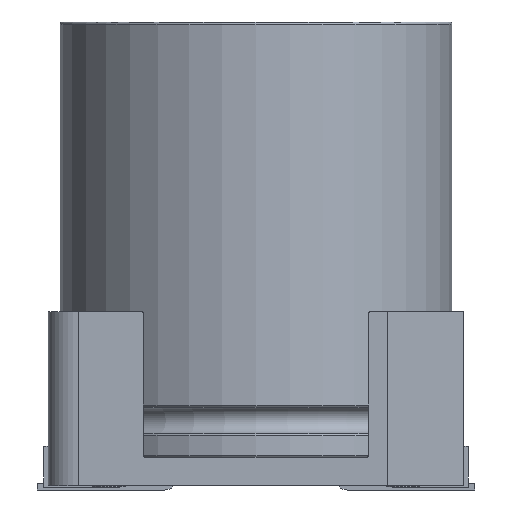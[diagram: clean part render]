
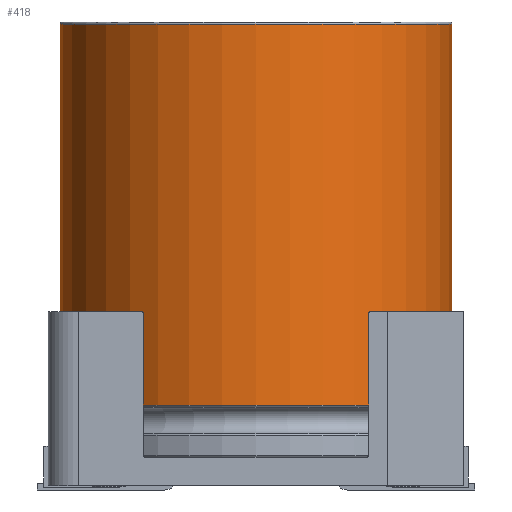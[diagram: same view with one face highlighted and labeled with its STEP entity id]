
A CAD part, front view. The second image highlights one B-rep face of the part: STEP entity #418.
In plain terms, the highlighted cylindrical face has radius 9 mm (diameter 18 mm), a full revolution.
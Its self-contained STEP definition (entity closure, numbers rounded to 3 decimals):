
#144=CYLINDRICAL_SURFACE('',#3396,9.);
#418=ADVANCED_FACE('',(#1357,#1358),#144,.T.);
#1357=FACE_BOUND('',#1441,.T.);
#1358=FACE_BOUND('',#1442,.T.);
#1441=EDGE_LOOP('',(#1883));
#1442=EDGE_LOOP('',(#1884));
#1883=ORIENTED_EDGE('',*,*,#2929,.T.);
#1884=ORIENTED_EDGE('',*,*,#2930,.T.);
#2587=VERTEX_POINT('',#4968);
#2588=VERTEX_POINT('',#4970);
#2929=EDGE_CURVE('',#2587,#2587,#3239,.T.);
#2930=EDGE_CURVE('',#2588,#2588,#3240,.T.);
#3239=CIRCLE('',#3394,9.);
#3240=CIRCLE('',#3395,9.);
#3394=AXIS2_PLACEMENT_3D('',#4967,#3894,#3895);
#3395=AXIS2_PLACEMENT_3D('',#4969,#3896,#3897);
#3396=AXIS2_PLACEMENT_3D('',#4971,#3898,#3899);
#3894=DIRECTION('',(0.,0.,1.));
#3895=DIRECTION('',(1.,0.,0.));
#3896=DIRECTION('',(0.,0.,-1.));
#3897=DIRECTION('',(-1.,0.,0.));
#3898=DIRECTION('',(0.,0.,-1.));
#3899=DIRECTION('',(-1.,0.,0.));
#4967=CARTESIAN_POINT('',(0.,0.,3.7));
#4968=CARTESIAN_POINT('',(9.,0.,3.7));
#4969=CARTESIAN_POINT('',(0.,0.,21.2));
#4970=CARTESIAN_POINT('',(-9.,0.,21.2));
#4971=CARTESIAN_POINT('',(0.,0.,0.));
